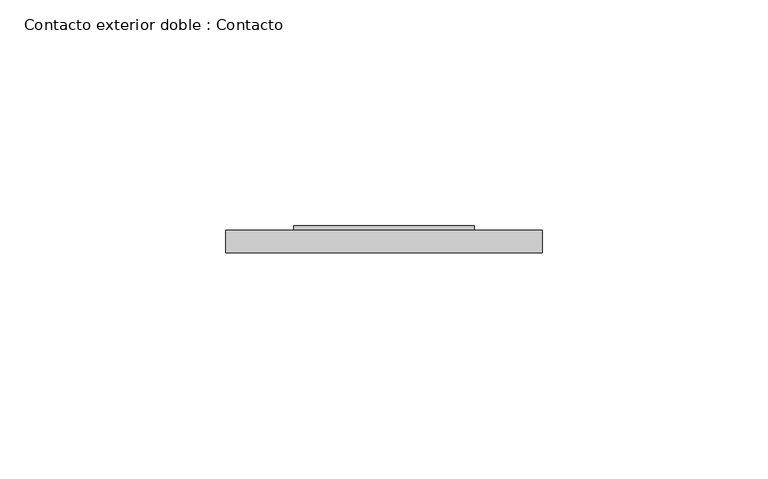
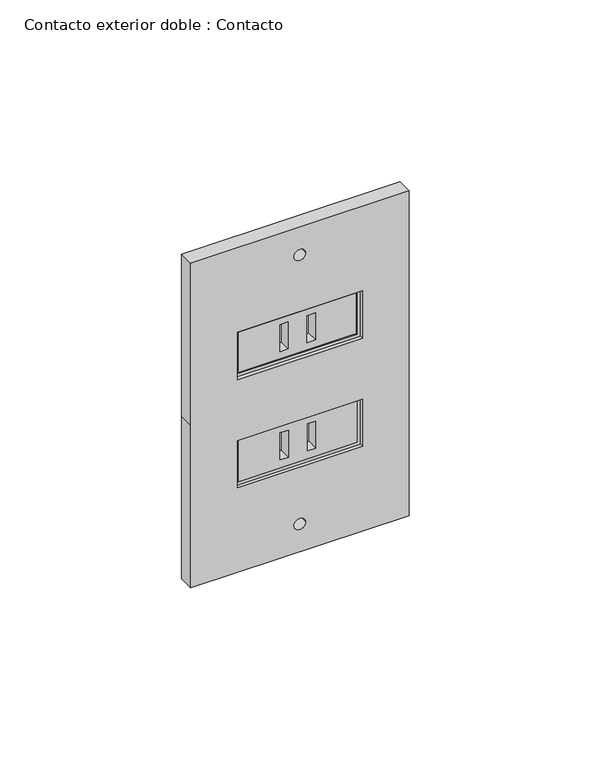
"""IFC4 building model written with IfcOpenShell, lengths in millimetres: proxy geometry, Contacto exterior doble : Contacto."""

import ifcopenshell
import ifcopenshell.guid

model = None  # the IFC model being written
_history = None  # IfcOwnerHistory: only IFC2X3 demands one
_inside = {}  # id of a spatial element -> (the spatial element, [elements in it])
_under = {}  # id of a project, library or spatial element -> (it, [spatial elements below it])
_declared = {}  # id of a project -> (the project, [libraries it declares])
_typed = {}  # id of a type object -> (the type object, [elements of that type])
_made_of = {}  # id of a material, layer set ... -> (it, [elements and type objects made of it])


def new_model(schema):
    """Start an empty IFC model of exactly this schema.

    Asked for "IFC4X3", IfcOpenShell would pick the latest addendum, in which some entities
    have other attributes; the version numbers below select the first issue.
    IFC2X3 requires an IfcOwnerHistory on every rooted entity: one is made here for all.
    """
    global model, _history
    if schema == "IFC4X3":
        model = ifcopenshell.file(schema_version=(4, 3, 0, 0))
    else:
        model = ifcopenshell.file(schema=schema)
    _inside.clear()
    _under.clear()
    _declared.clear()
    _typed.clear()
    _made_of.clear()
    _history = None
    if model.schema == "IFC2X3":
        org = make("IfcOrganization", Name="unknown")
        user = make(
            "IfcPersonAndOrganization",
            ThePerson=make("IfcPerson", FamilyName="unknown"),
            TheOrganization=org,
        )
        app = make(
            "IfcApplication",
            ApplicationDeveloper=org,
            Version="unknown",
            ApplicationFullName="unknown",
            ApplicationIdentifier="unknown",
        )
        _history = make(
            "IfcOwnerHistory",
            OwningUser=user,
            OwningApplication=app,
            ChangeAction="ADDED",
            CreationDate=0,
        )
    return model


def make(cls, **values):
    """One entity of the class cls with the attributes given. An attribute that is None is left unset."""
    return model.create_entity(
        cls, **{name: value for name, value in values.items() if value is not None}
    )


def rooted(cls, **values):
    """An entity with a GlobalId (a new one), such as an element, a storey or a relation."""
    return make(cls, GlobalId=ifcopenshell.guid.new(), OwnerHistory=_history, **values)


def si_unit(unit_type, name, prefix=None):
    """IfcSIUnit, for example si_unit("LENGTHUNIT", "METRE", prefix="MILLI")."""
    return make("IfcSIUnit", UnitType=unit_type, Prefix=prefix, Name=name)


def assignment(units):
    """IfcUnitAssignment: the units of a project."""
    return None if units is None else make("IfcUnitAssignment", Units=units)


def point(xyz):
    """IfcCartesianPoint."""
    return None if xyz is None else make("IfcCartesianPoint", Coordinates=xyz)


def direction(xyz):
    """IfcDirection."""
    return None if xyz is None else make("IfcDirection", DirectionRatios=xyz)


def frame(location, z_axis=None, x_axis=None):
    """IfcAxis2Placement3D, a coordinate frame: its origin and axes. An axis left out is left unset."""
    return make(
        "IfcAxis2Placement3D",
        Location=point(location),
        Axis=direction(z_axis),
        RefDirection=direction(x_axis),
    )


def frame_2d(location, x_axis=None):
    """IfcAxis2Placement2D, a coordinate frame in the plane: its origin and x axis."""
    return make(
        "IfcAxis2Placement2D", Location=point(location), RefDirection=direction(x_axis)
    )


def origin():
    """The frame at (0, 0, 0) with its axes left unset."""
    return frame((0.0, 0.0, 0.0))


def place(relative_to, where):
    """IfcLocalPlacement: puts the frame where relative to a parent placement (None: the world)."""
    return make(
        "IfcLocalPlacement", PlacementRelTo=relative_to, RelativePlacement=where
    )


def context(
    kind, dimensions, precision=None, world=None, true_north=None, identifier=None
):
    """IfcGeometricRepresentationContext, for example the 3D "Model" context."""
    return make(
        "IfcGeometricRepresentationContext",
        ContextIdentifier=identifier,
        ContextType=kind,
        CoordinateSpaceDimension=dimensions,
        Precision=precision,
        WorldCoordinateSystem=world,
        TrueNorth=true_north,
    )


def project(units=None, contexts=None):
    """IfcProject with its units and contexts."""
    return rooted(
        "IfcProject",
        Name="project",
        RepresentationContexts=contexts,
        UnitsInContext=assignment(units),
    )


def spatial(cls, under=None, at=None, **own):
    """A site, building, storey or space (cls), placed at a placement, below another one or the project."""
    s = rooted(cls, ObjectPlacement=at, **own)
    if under is not None:
        _under.setdefault(under.id(), (under, []))[1].append(s)
    return s


def polyline(points):
    """IfcPolyline through the points."""
    return make("IfcPolyline", Points=[point(p) for p in points])


def circle_curve(where, radius):
    """IfcCircle in the frame where."""
    return make("IfcCircle", Position=where, Radius=radius)


def trimmed(basis, trim1, trim2, sense, master):
    """IfcTrimmedCurve: the piece of a basis curve between two trims."""
    return make(
        "IfcTrimmedCurve",
        BasisCurve=basis,
        Trim1=trim1,
        Trim2=trim2,
        SenseAgreement=sense,
        MasterRepresentation=master,
    )


def segment(curve, same_sense, transition):
    """IfcCompositeCurveSegment."""
    return make(
        "IfcCompositeCurveSegment",
        Transition=transition,
        SameSense=same_sense,
        ParentCurve=curve,
    )


def composite_curve(segments, self_intersect=None):
    """IfcCompositeCurve: segments joined end to end."""
    return make("IfcCompositeCurve", Segments=segments, SelfIntersect=self_intersect)


def outline(outer, holes=None, kind="AREA"):
    """IfcArbitraryClosedProfileDef: a profile drawn as a closed curve; with holes, ...WithVoids."""
    if holes is None:
        return make("IfcArbitraryClosedProfileDef", ProfileType=kind, OuterCurve=outer)
    return make(
        "IfcArbitraryProfileDefWithVoids",
        ProfileType=kind,
        OuterCurve=outer,
        InnerCurves=holes,
    )


def extrude(swept, where, along, depth):
    """IfcExtrudedAreaSolid: the profile swept, set in the frame where, extruded along a direction by depth."""
    return make(
        "IfcExtrudedAreaSolid",
        SweptArea=swept,
        Position=where,
        ExtrudedDirection=direction(along),
        Depth=depth,
    )


def shape(context_of_items, identifier, shape_type, items):
    """IfcShapeRepresentation: the items that make up one representation, for example the "Body"."""
    return make(
        "IfcShapeRepresentation",
        ContextOfItems=context_of_items,
        RepresentationIdentifier=identifier,
        RepresentationType=shape_type,
        Items=items,
    )


def source(mapping_origin, context_of_items, identifier, shape_type, items):
    """IfcRepresentationMap: a shape defined once, which mapped items show again and again."""
    return make(
        "IfcRepresentationMap",
        MappingOrigin=mapping_origin,
        MappedRepresentation=shape(context_of_items, identifier, shape_type, items),
    )


def transform(
    local_origin,
    x_axis=None,
    y_axis=None,
    z_axis=None,
    scale=None,
    scale2=None,
    scale3=None,
    uniform=True,
):
    """IfcCartesianTransformationOperator3D, or its non-uniform kind. x_axis, y_axis, z_axis: its Axis1, 2, 3."""
    if uniform:
        return make(
            "IfcCartesianTransformationOperator3D",
            Axis1=direction(x_axis),
            Axis2=direction(y_axis),
            LocalOrigin=point(local_origin),
            Scale=scale,
            Axis3=direction(z_axis),
        )
    return make(
        "IfcCartesianTransformationOperator3DnonUniform",
        Axis1=direction(x_axis),
        Axis2=direction(y_axis),
        LocalOrigin=point(local_origin),
        Scale=scale,
        Axis3=direction(z_axis),
        Scale2=scale2,
        Scale3=scale3,
    )


def mapped(mapping_source, mapping_target):
    """IfcMappedItem: shows the shape of a source again, moved by a transform."""
    return make(
        "IfcMappedItem", MappingSource=mapping_source, MappingTarget=mapping_target
    )


def made_of(thing, what):
    """Note that an element or type object is made of a material, layer set ...; save() writes the relation."""
    if what is not None:
        _made_of.setdefault(what.id(), (what, []))[1].append(thing)
    return thing


def element(
    cls,
    number,
    at=None,
    inside=None,
    cuts=None,
    type_object=None,
    material=None,
    context=None,
    identifier="Body",
    shape_type=None,
    held_by="IfcProductDefinitionShape",
    body=None,
    shapes=None,
    **own,
):
    """One element of the class cls, such as IfcWall. Its Tag is "e" and its number.

    at: its placement. inside: the storey or other place that contains it. cuts: it is an
    opening in that element (IfcRelVoidsElement). A single representation is given by context,
    identifier, shape_type and body (its items); several are given by shapes. held_by: the class
    of the entity that holds the representations. save() writes the other relations.
    """
    e = rooted(cls, Tag="e%d" % number, ObjectPlacement=at, **own)
    if body is not None:
        shapes = [shape(context, identifier, shape_type, body)]
    if shapes is not None:
        e.Representation = make(held_by, Representations=shapes)
    if inside is not None:
        _inside.setdefault(inside.id(), (inside, []))[1].append(e)
    if cuts is not None:
        rooted(
            "IfcRelVoidsElement", RelatingBuildingElement=cuts, RelatedOpeningElement=e
        )
    if type_object is not None:
        _typed.setdefault(type_object.id(), (type_object, []))[1].append(e)
    return made_of(e, material)


def aggregate(whole, parts):
    """IfcRelAggregates: a whole, such as a stair, and the parts it consists of."""
    return rooted("IfcRelAggregates", RelatingObject=whole, RelatedObjects=parts)


def save(model, path):
    """Write the relations noted so far, then the file.

    IfcRelAggregates (storeys below a building ...), IfcRelContainedInSpatialStructure (elements
    in a storey), IfcRelDefinesByType, IfcRelAssociatesMaterial and IfcRelDeclares: one each for
    every whole, place, type object, material and project.
    """
    for whole, parts in _under.values():
        aggregate(whole, parts)
    for where, things in _inside.values():
        rooted(
            "IfcRelContainedInSpatialStructure",
            RelatedElements=things,
            RelatingStructure=where,
        )
    for kind, things in _typed.values():
        rooted("IfcRelDefinesByType", RelatedObjects=things, RelatingType=kind)
    for what, things in _made_of.values():
        rooted("IfcRelAssociatesMaterial", RelatedObjects=things, RelatingMaterial=what)
    for by, libraries in _declared.values():
        rooted("IfcRelDeclares", RelatingContext=by, RelatedDefinitions=libraries)
    model.write(path)


def contacto_exterior_doble_contacto_b074df66(model_context):
    return source(origin(), model_context, "Body", "SweptSolid", [
        extrude(outline(polyline([(338.6666667, 106.0359807), (324.6666667, 106.0359807), (324.6666667, 144.0359807), (338.6666667, 144.0359807), (338.6666667, 106.0359807)]), holes=[polyline([(327.3652061, 121.9892242), (327.3652061, 119.3302678), (336.5176584, 119.3302678), (336.5176584, 121.9892242), (327.3652061, 121.9892242)]), polyline([(327.3652061, 128.0827373), (336.5176584, 128.0827373), (336.5176584, 130.7416937), (327.3652061, 130.7416937), (327.3652061, 128.0827373)])]), frame((0.0, 91.2025607, 0.0), z_axis=(0.0, 1.0, 0.0), x_axis=(0.0, 0.0, 1.0)), (0.0, 0.0, 1.0), 3.7974393),
        extrude(outline(polyline([(339.6666667, 145.0), (339.6666667, 105.0), (323.6666667, 105.0), (323.6666667, 145.0), (339.6666667, 145.0)]), holes=[polyline([(338.6666667, 144.0359807), (324.6666667, 144.0359807), (324.6666667, 105.9197769), (338.6666667, 105.9197769), (338.6666667, 144.0359807)])]), frame((0.0, 91.2025607, 0.0), z_axis=(0.0, 1.0, 0.0), x_axis=(0.0, 0.0, 1.0)), (0.0, 0.0, 1.0), 4.7658788),
        extrude(outline(polyline([(360.3333333, 145.0), (376.3333333, 145.0), (376.3333333, 105.0), (360.3333333, 105.0), (360.3333333, 145.0)]), holes=[polyline([(375.3333333, 106.0), (375.3333333, 144.0), (361.3333333, 144.0), (361.3333333, 106.0), (375.3333333, 106.0)])]), frame((0.0, 91.2025607, 0.0), z_axis=(0.0, 1.0, 0.0), x_axis=(0.0, 0.0, 1.0)), (0.0, 0.0, 1.0), 4.7658788),
        extrude(outline(polyline([(375.3333333, 106.0), (361.3333333, 106.0), (361.3333333, 144.0), (375.3333333, 144.0), (375.3333333, 106.0)]), holes=[polyline([(364.0318727, 121.9532435), (364.0318727, 119.2942871), (373.184325, 119.2942871), (373.184325, 121.9532435), (364.0318727, 121.9532435)]), polyline([(364.0318727, 128.0467565), (373.184325, 128.0467565), (373.184325, 130.7057129), (364.0318727, 130.7057129), (364.0318727, 128.0467565)])]), frame((0.0, 91.2025607, 0.0), z_axis=(0.0, 1.0, 0.0), x_axis=(0.0, 0.0, 1.0)), (0.0, 0.0, 1.0), 3.7974393),
        extrude(outline(polyline([(405.0, 160.0), (405.0, 90.0), (350.0, 90.0), (295.0, 90.0), (295.0, 160.0), (405.0, 160.0)]), holes=[composite_curve([segment(trimmed(circle_curve(frame_2d((395.5814465, 125.0)), 1.8475425), [point((395.5814465, 123.1524575))], [point((395.5814465, 126.8475425))], True, "CARTESIAN"), True, "CONTINUOUS"), segment(trimmed(circle_curve(frame_2d((395.5814465, 125.0)), 1.8475425), [point((395.5814465, 126.8475425))], [point((395.5814465, 123.1524575))], True, "CARTESIAN"), True, "CONTINUOUS")], self_intersect=False), composite_curve([segment(trimmed(circle_curve(frame_2d((304.4185535, 125.0)), 1.8475425), [point((304.4185535, 123.1524575))], [point((304.4185535, 126.8475425))], True, "CARTESIAN"), True, "CONTINUOUS"), segment(trimmed(circle_curve(frame_2d((304.4185535, 125.0)), 1.8475425), [point((304.4185535, 126.8475425))], [point((304.4185535, 123.1524575))], True, "CARTESIAN"), True, "CONTINUOUS")], self_intersect=False), polyline([(339.6666667, 105.0), (339.6666667, 145.0), (323.6666667, 145.0), (323.6666667, 105.0), (339.6666667, 105.0)]), polyline([(376.3333333, 105.0), (376.3333333, 145.0), (360.3333333, 145.0), (360.3333333, 105.0), (376.3333333, 105.0)])]), frame((0.0, 90.0, 0.0), z_axis=(0.0, 1.0, 0.0), x_axis=(0.0, 0.0, 1.0)), (0.0, 0.0, 1.0), 5.0),
    ])


if __name__ == "__main__":
    model = new_model("IFC4")
    model_context = context("Model", 3, world=origin())
    ifc_project = project(units=[si_unit("LENGTHUNIT", "METRE", prefix="MILLI")], contexts=[model_context])
    site = spatial("IfcSite", under=ifc_project)
    building = spatial("IfcBuilding", under=site)
    placement = place(None, origin())
    contacto_exterior_doble_contacto_shape = contacto_exterior_doble_contacto_b074df66(model_context)
    element("IfcBuildingElementProxy", 1, Name="Contacto exterior doble : Contacto", ObjectType="Contacto exterior doble : Contacto", at=placement, inside=building, context=model_context, shape_type="MappedRepresentation", body=[
        mapped(contacto_exterior_doble_contacto_shape, transform((0.0, 0.0, 0.0), x_axis=(1.0, 0.0, 0.0), y_axis=(0.0, 1.0, 0.0), z_axis=(0.0, 0.0, 1.0))),
    ])
    save(model, "model.ifc")
